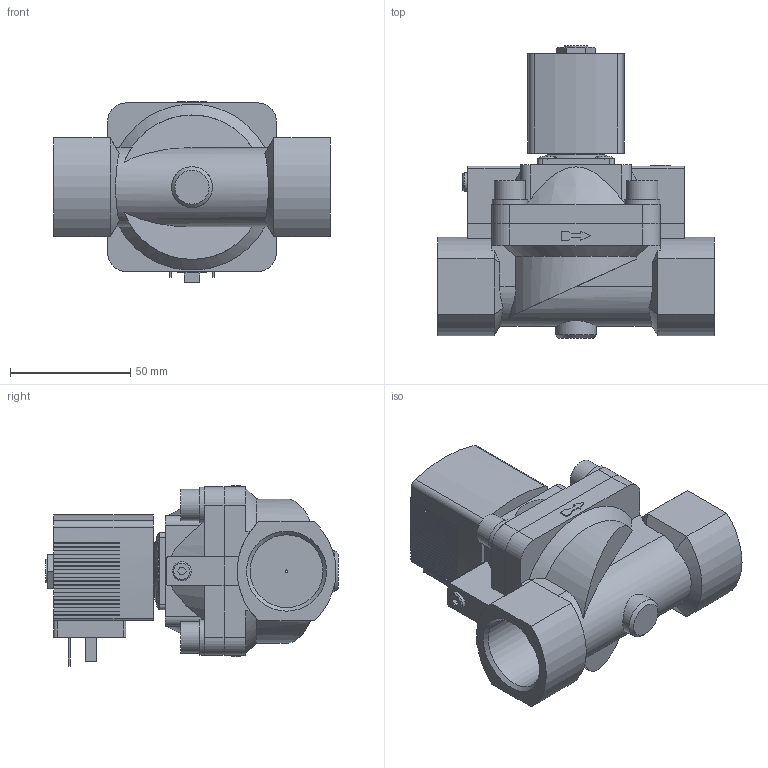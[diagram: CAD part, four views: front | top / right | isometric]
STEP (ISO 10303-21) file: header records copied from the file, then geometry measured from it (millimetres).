
FILE_DESCRIPTION(/* description */ ('STEP AP214'),/* implementation_level */ '2;1');
FILE_NAME(/* name */ '5404-301711-Servo-assisted_2_2_way_piston_valve',/* time_stamp */ '2024-02-29T10:51:34+01:00',/* author */ ('License CC BY-ND 4.0'),/* organization */ ('CADENAS'),/* preprocessor_version */ 'ST-DEVELOPER v19.3',/* originating_system */ 'PARTsolutions',/* authorisation */ ' ');
FILE_SCHEMA (('AUTOMOTIVE_DESIGN {1 0 10303 214 3 1 1}'));
Length unit declared in the file: millimetre
Products named in the file (4): 5404-301711-Servo-assisted 2/2 way piston valve; 5282g-8625MS000-2/2-Wege-Magnetventil_Gehaeuse; 5282d-25MSAU3J-2/2-Wege-Magnetventil_Deckel; AC10ex-6OO-Plan-Coil
Assembly tree (3 placements, depth 2):
  5404-301711-Servo-assisted 2/2 way piston valve
    5282g-8625MS000-2/2-Wege-Magnetventil_Gehaeuse
    5282d-25MSAU3J-2/2-Wege-Magnetventil_Deckel
    AC10ex-6OO-Plan-Coil
Bounding box: 115 x 121.6 x 75 mm (x, y, z)
Volume: 342737.6 mm3; surface area: 61733.9 mm2
Topology: 3 solids, 3 shells, 499 faces, 1360 edges, 901 vertices
Faces by surface type: plane 396, cylinder 76, cone 22, torus 5
Full cylindrical faces by diameter (mm): 1 x1, 2.013 x1, 4 x4, 7.5 x4, 7.6 x4, 7.8 x1, 9.74 x1, 13 x4, 14.8 x4, 17 x1, 21 x1, 30.291 x2
Entity records: 17652 total; most frequent: CARTESIAN_POINT 2953, ORIENTED_EDGE 2620, DIRECTION 2526, EDGE_CURVE 1310, LINE 998, VECTOR 998, VERTEX_POINT 890, AXIS2_PLACEMENT_3D 764
